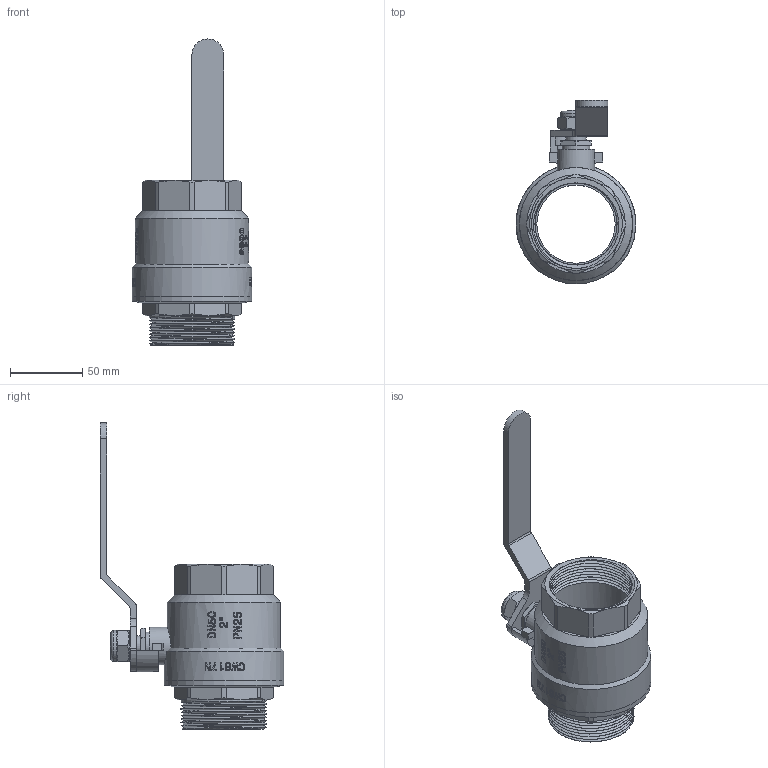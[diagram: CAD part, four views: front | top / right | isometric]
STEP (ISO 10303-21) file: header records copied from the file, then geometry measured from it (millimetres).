
FILE_DESCRIPTION(/* description */ (''),/* implementation_level */ '2;1');
FILE_NAME(/* name */ 'H:\Мишенин_3D\Исходные файлы 3D\VT.215.N.09.stp',/* time_stamp */ '2018-01-16T15:20:03+03:00',/* author */ ('MisheninAL'),/* organization */ (''),/* preprocessor_version */ 'ST-DEVELOPER v16.13',/* originating_system */ 'Autodesk Inventor 2018',/* authorisation */ '');
FILE_SCHEMA (('AUTOMOTIVE_DESIGN { 1 0 10303 214 3 1 1 }'));
Length unit declared in the file: millimetre
Products named in the file (1): VT.214_ВВ_2
Bounding box: 82.76 x 126.68 x 211.35 mm (x, y, z)
Volume: 223639.6 mm3; surface area: 72276.4 mm2
Topology: 1 solids, 1 shells, 520 faces, 1383 edges, 915 vertices
Faces by surface type: plane 222, bspline 176, cylinder 96, cone 24, torus 2
Full cylindrical faces by diameter (mm): 13.916 x2, 19.134 x1, 21.454 x1, 25.807 x1, 54 x1, 56.7 x8, 59.315 x8, 78.064 x1, 82.564 x1
Entity records: 23724 total; most frequent: CARTESIAN_POINT 12256, ORIENTED_EDGE 2614, DIRECTION 1938, EDGE_CURVE 1307, VERTEX_POINT 873, AXIS2_PLACEMENT_3D 664, LINE 610, VECTOR 610
